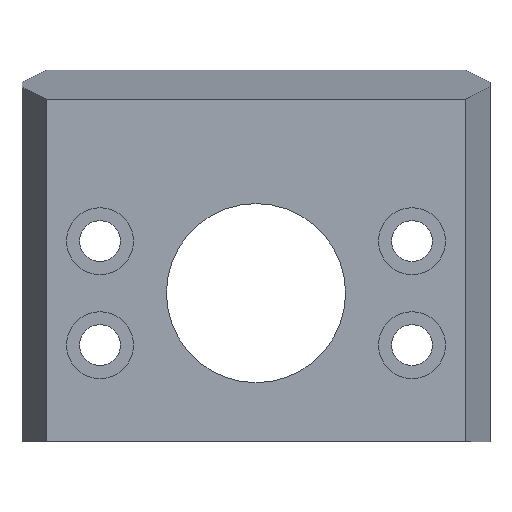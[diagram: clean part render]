
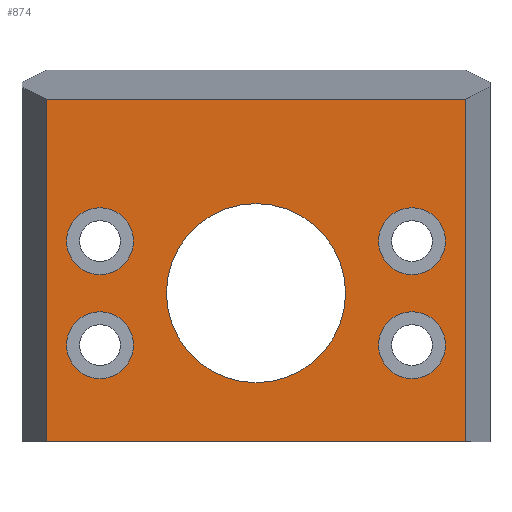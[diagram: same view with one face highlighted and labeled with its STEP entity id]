
A CAD part, left-side view. The second image highlights one B-rep face of the part: STEP entity #874.
In plain terms, the highlighted planar face has unit normal (-1, 0, 0).
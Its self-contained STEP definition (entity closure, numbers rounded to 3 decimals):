
#72=CARTESIAN_POINT('',(-11.0,0.,32.058));
#73=VERTEX_POINT('',#72);
#89=CARTESIAN_POINT('',(-11.,0.,7.942));
#90=VERTEX_POINT('',#89);
#97=CARTESIAN_POINT('',(-11.,0.,20.0));
#98=DIRECTION('',(1.0,0.0,0.0));
#99=DIRECTION('',(0.0,0.0,1.0));
#100=AXIS2_PLACEMENT_3D('',#97,#98,#99);
#101=CIRCLE('',#100,12.059);
#102=EDGE_CURVE('',#73,#90,#101,.T.);
#198=CARTESIAN_POINT('',(-11.0,-21.0,31.5));
#199=VERTEX_POINT('',#198);
#215=CARTESIAN_POINT('',(-11.,-21.0,22.5));
#216=VERTEX_POINT('',#215);
#223=CARTESIAN_POINT('',(-11.,-21.0,27.0));
#224=DIRECTION('',(1.0,0.0,0.0));
#225=DIRECTION('',(0.0,0.0,1.0));
#226=AXIS2_PLACEMENT_3D('',#223,#224,#225);
#227=CIRCLE('',#226,4.5);
#228=EDGE_CURVE('',#199,#216,#227,.T.);
#324=CARTESIAN_POINT('',(-11.0,-21.0,17.5));
#325=VERTEX_POINT('',#324);
#341=CARTESIAN_POINT('',(-11.,-21.0,8.5));
#342=VERTEX_POINT('',#341);
#349=CARTESIAN_POINT('',(-11.,-21.0,13.));
#350=DIRECTION('',(1.0,0.0,0.0));
#351=DIRECTION('',(0.0,0.0,1.0));
#352=AXIS2_PLACEMENT_3D('',#349,#350,#351);
#353=CIRCLE('',#352,4.5);
#354=EDGE_CURVE('',#325,#342,#353,.T.);
#450=CARTESIAN_POINT('',(-11.,21.0,31.5));
#451=VERTEX_POINT('',#450);
#467=CARTESIAN_POINT('',(-11.0,21.0,22.5));
#468=VERTEX_POINT('',#467);
#475=CARTESIAN_POINT('',(-11.0,21.0,27.0));
#476=DIRECTION('',(1.0,0.0,0.0));
#477=DIRECTION('',(0.0,0.0,1.0));
#478=AXIS2_PLACEMENT_3D('',#475,#476,#477);
#479=CIRCLE('',#478,4.5);
#480=EDGE_CURVE('',#451,#468,#479,.T.);
#576=CARTESIAN_POINT('',(-11.,21.0,17.5));
#577=VERTEX_POINT('',#576);
#593=CARTESIAN_POINT('',(-11.0,21.0,8.5));
#594=VERTEX_POINT('',#593);
#601=CARTESIAN_POINT('',(-11.0,21.0,13.));
#602=DIRECTION('',(1.0,0.0,0.0));
#603=DIRECTION('',(0.0,0.0,1.0));
#604=AXIS2_PLACEMENT_3D('',#601,#602,#603);
#605=CIRCLE('',#604,4.5);
#606=EDGE_CURVE('',#577,#594,#605,.T.);
#768=CARTESIAN_POINT('',(-11.,-28.224,46.121));
#769=VERTEX_POINT('',#768);
#776=CARTESIAN_POINT('',(-11.,-28.224,0.0));
#777=VERTEX_POINT('',#776);
#778=CARTESIAN_POINT('',(-11.,-28.224,0.0));
#779=DIRECTION('',(0.0,0.0,1.0));
#780=VECTOR('',#779,46.121);
#781=LINE('',#778,#780);
#782=EDGE_CURVE('',#777,#769,#781,.T.);
#794=CARTESIAN_POINT('',(-11.,-28.224,0.0));
#795=DIRECTION('',(-1.0,0.0,0.0));
#796=DIRECTION('',(0.0,0.0,1.0));
#797=AXIS2_PLACEMENT_3D('',#794,#795,#796);
#798=PLANE('',#797);
#799=CARTESIAN_POINT('',(-11.0,28.224,46.121));
#800=VERTEX_POINT('',#799);
#801=CARTESIAN_POINT('',(-11.0,28.224,46.121));
#802=DIRECTION('',(0.0,-1.0,0.0));
#803=VECTOR('',#802,56.449);
#804=LINE('',#801,#803);
#805=EDGE_CURVE('',#769,#800,#804,.F.);
#806=ORIENTED_EDGE('',*,*,#805,.T.);
#807=CARTESIAN_POINT('',(-11.0,28.224,0.0));
#808=VERTEX_POINT('',#807);
#809=CARTESIAN_POINT('',(-11.0,28.224,0.0));
#810=DIRECTION('',(0.0,0.0,1.0));
#811=VECTOR('',#810,46.121);
#812=LINE('',#809,#811);
#813=EDGE_CURVE('',#808,#800,#812,.T.);
#814=ORIENTED_EDGE('',*,*,#813,.F.);
#815=CARTESIAN_POINT('',(-11.,-28.224,0.0));
#816=DIRECTION('',(0.0,1.0,0.0));
#817=VECTOR('',#816,56.449);
#818=LINE('',#815,#817);
#819=EDGE_CURVE('',#777,#808,#818,.T.);
#820=ORIENTED_EDGE('',*,*,#819,.F.);
#821=ORIENTED_EDGE('',*,*,#782,.T.);
#822=EDGE_LOOP('',(#806,#814,#820,#821));
#823=FACE_OUTER_BOUND('',#822,.T.);
#824=ORIENTED_EDGE('',*,*,#606,.T.);
#825=CARTESIAN_POINT('',(-11.0,21.0,13.));
#826=DIRECTION('',(1.0,0.0,0.0));
#827=DIRECTION('',(0.0,0.0,1.0));
#828=AXIS2_PLACEMENT_3D('',#825,#826,#827);
#829=CIRCLE('',#828,4.5);
#830=EDGE_CURVE('',#594,#577,#829,.T.);
#831=ORIENTED_EDGE('',*,*,#830,.T.);
#832=EDGE_LOOP('',(#824,#831));
#833=FACE_BOUND('',#832,.T.);
#834=ORIENTED_EDGE('',*,*,#480,.T.);
#835=CARTESIAN_POINT('',(-11.0,21.0,27.0));
#836=DIRECTION('',(1.0,0.0,0.0));
#837=DIRECTION('',(0.0,0.0,1.0));
#838=AXIS2_PLACEMENT_3D('',#835,#836,#837);
#839=CIRCLE('',#838,4.5);
#840=EDGE_CURVE('',#468,#451,#839,.T.);
#841=ORIENTED_EDGE('',*,*,#840,.T.);
#842=EDGE_LOOP('',(#834,#841));
#843=FACE_BOUND('',#842,.T.);
#844=ORIENTED_EDGE('',*,*,#354,.T.);
#845=CARTESIAN_POINT('',(-11.,-21.0,13.));
#846=DIRECTION('',(1.0,0.0,0.0));
#847=DIRECTION('',(0.0,0.0,1.0));
#848=AXIS2_PLACEMENT_3D('',#845,#846,#847);
#849=CIRCLE('',#848,4.5);
#850=EDGE_CURVE('',#342,#325,#849,.T.);
#851=ORIENTED_EDGE('',*,*,#850,.T.);
#852=EDGE_LOOP('',(#844,#851));
#853=FACE_BOUND('',#852,.T.);
#854=ORIENTED_EDGE('',*,*,#228,.T.);
#855=CARTESIAN_POINT('',(-11.,-21.0,27.0));
#856=DIRECTION('',(1.0,0.0,0.0));
#857=DIRECTION('',(0.0,0.0,1.0));
#858=AXIS2_PLACEMENT_3D('',#855,#856,#857);
#859=CIRCLE('',#858,4.5);
#860=EDGE_CURVE('',#216,#199,#859,.T.);
#861=ORIENTED_EDGE('',*,*,#860,.T.);
#862=EDGE_LOOP('',(#854,#861));
#863=FACE_BOUND('',#862,.T.);
#864=ORIENTED_EDGE('',*,*,#102,.T.);
#865=CARTESIAN_POINT('',(-11.,0.,20.0));
#866=DIRECTION('',(1.0,0.0,0.0));
#867=DIRECTION('',(0.0,0.0,1.0));
#868=AXIS2_PLACEMENT_3D('',#865,#866,#867);
#869=CIRCLE('',#868,12.059);
#870=EDGE_CURVE('',#90,#73,#869,.T.);
#871=ORIENTED_EDGE('',*,*,#870,.T.);
#872=EDGE_LOOP('',(#864,#871));
#873=FACE_BOUND('',#872,.T.);
#874=ADVANCED_FACE('',(#823,#833,#843,#853,#863,#873),#798,.T.);
